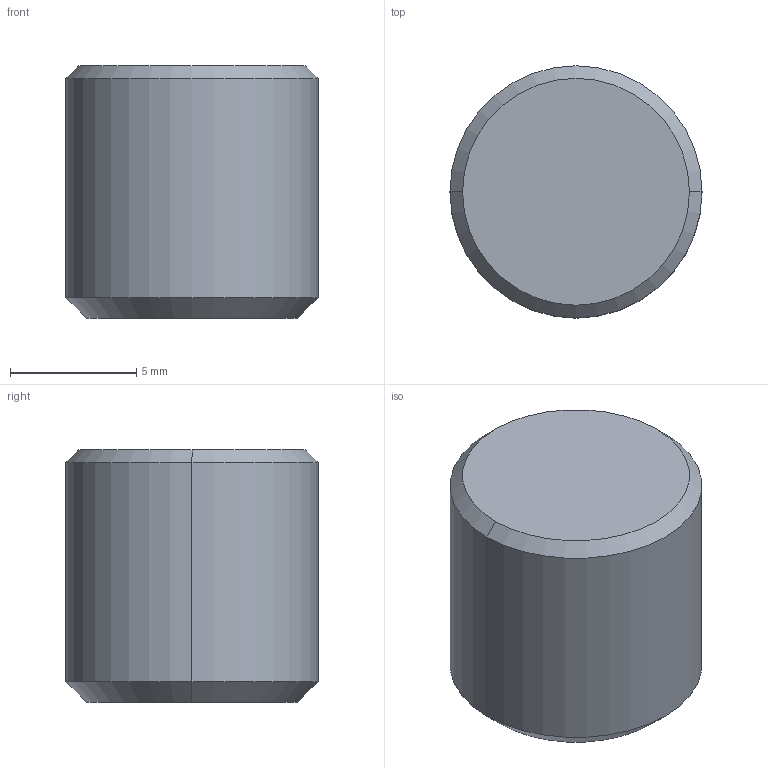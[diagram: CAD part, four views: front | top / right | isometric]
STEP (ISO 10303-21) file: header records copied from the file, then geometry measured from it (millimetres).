
FILE_DESCRIPTION (( 'STEP AP203' ), '1' );
FILE_NAME ('srp-100.STEP', '2021-10-25T04:28:10', ( '' ), ( '' ), 'SwSTEP 2.0', 'SolidWorks 2020', '' );
FILE_SCHEMA (( 'CONFIG_CONTROL_DESIGN' ));
Length unit declared in the file: millimetre
Products named in the file (1): srp-100
Bounding box: 10 x 10 x 10 mm (x, y, z)
Volume: 673.9 mm3; surface area: 524.7 mm2
Topology: 1 solids, 1 shells, 11 faces, 20 edges, 12 vertices
Faces by surface type: cone 4, cylinder 4, plane 3
Entity records: 351 total; most frequent: DIRECTION 56, CARTESIAN_POINT 44, ORIENTED_EDGE 40, AXIS2_PLACEMENT_3D 24, EDGE_CURVE 20, EDGE_LOOP 12, CIRCLE 12, VERTEX_POINT 12
